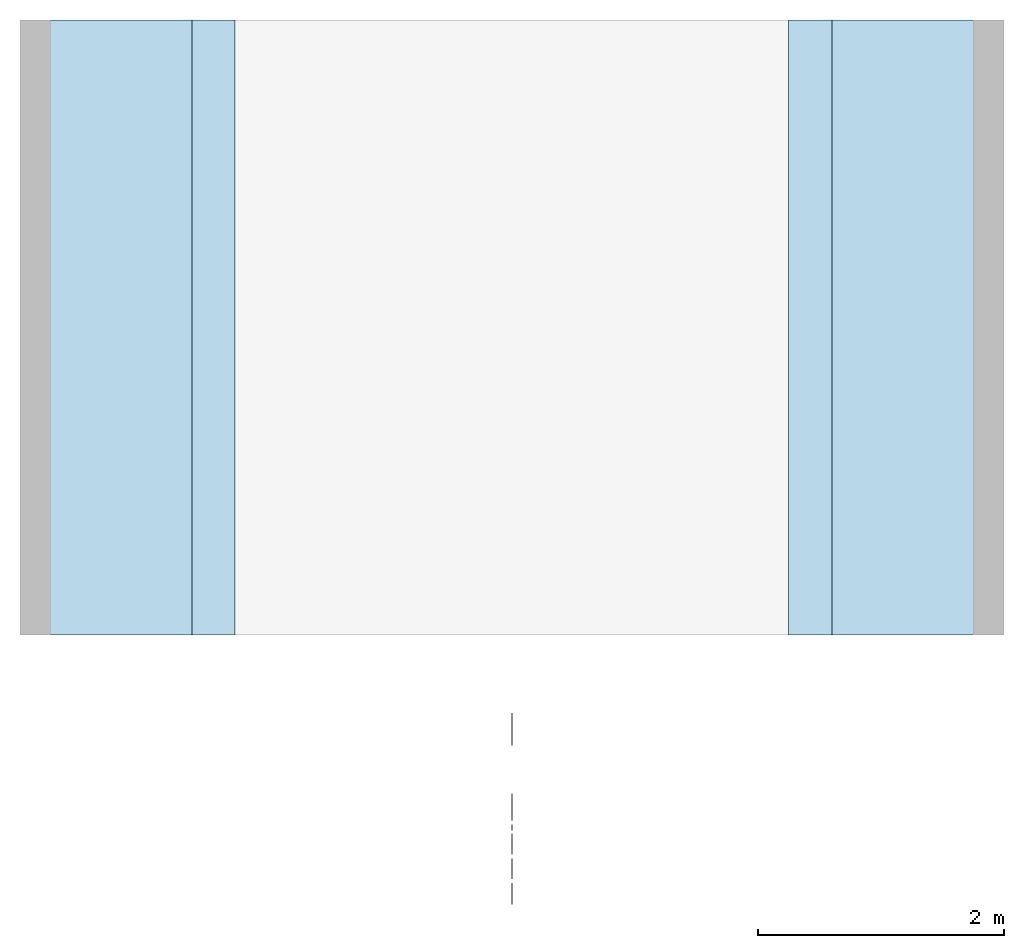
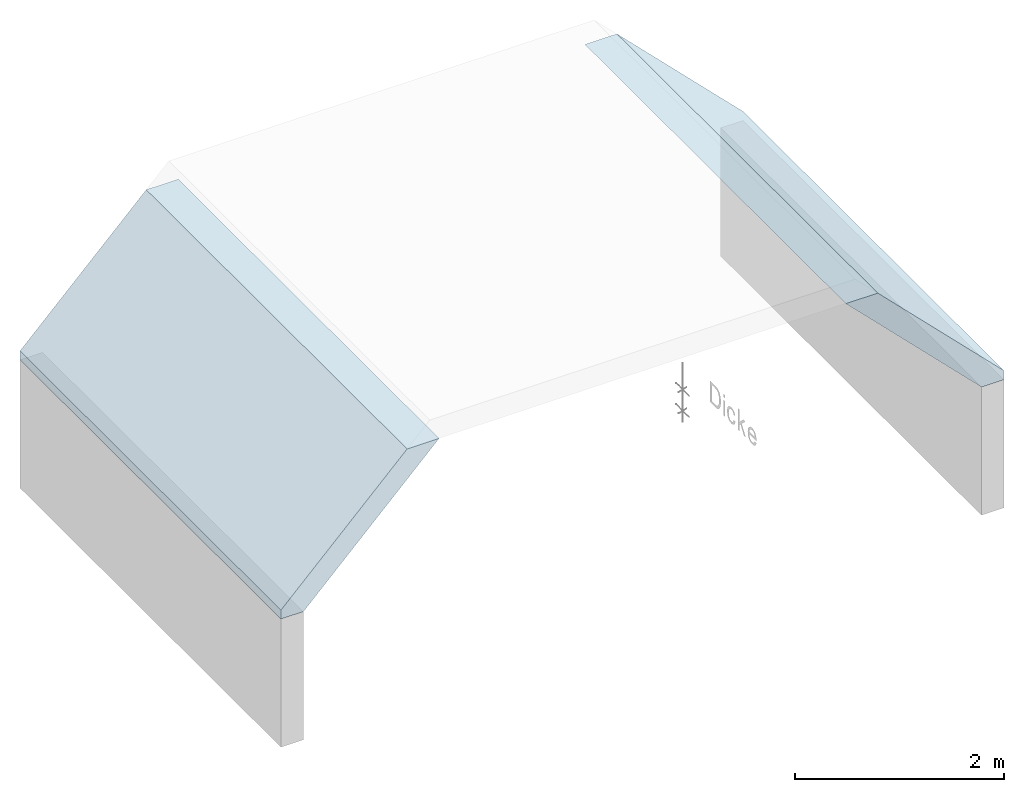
# One storey, part 2 of 3: 1 slab.
"""IFC4 building model written with IfcOpenShell, lengths in metres."""

import ifcopenshell
import ifcopenshell.guid

model = None  # the IFC model being written
_history = None  # IfcOwnerHistory: only IFC2X3 demands one
_inside = {}  # id of a spatial element -> (the spatial element, [elements in it])
_under = {}  # id of a project, library or spatial element -> (it, [spatial elements below it])
_declared = {}  # id of a project -> (the project, [libraries it declares])
_typed = {}  # id of a type object -> (the type object, [elements of that type])
_made_of = {}  # id of a material, layer set ... -> (it, [elements and type objects made of it])


def new_model(schema):
    """Start an empty IFC model of exactly this schema.

    Asked for "IFC4X3", IfcOpenShell would pick the latest addendum, in which some entities
    have other attributes; the version numbers below select the first issue.
    IFC2X3 requires an IfcOwnerHistory on every rooted entity: one is made here for all.
    """
    global model, _history
    if schema == "IFC4X3":
        model = ifcopenshell.file(schema_version=(4, 3, 0, 0))
    else:
        model = ifcopenshell.file(schema=schema)
    _inside.clear()
    _under.clear()
    _declared.clear()
    _typed.clear()
    _made_of.clear()
    _history = None
    if model.schema == "IFC2X3":
        org = make("IfcOrganization", Name="unknown")
        user = make(
            "IfcPersonAndOrganization",
            ThePerson=make("IfcPerson", FamilyName="unknown"),
            TheOrganization=org,
        )
        app = make(
            "IfcApplication",
            ApplicationDeveloper=org,
            Version="unknown",
            ApplicationFullName="unknown",
            ApplicationIdentifier="unknown",
        )
        _history = make(
            "IfcOwnerHistory",
            OwningUser=user,
            OwningApplication=app,
            ChangeAction="ADDED",
            CreationDate=0,
        )
    return model


def make(cls, **values):
    """One entity of the class cls with the attributes given. An attribute that is None is left unset."""
    return model.create_entity(
        cls, **{name: value for name, value in values.items() if value is not None}
    )


def entity(cls, *values):
    """Any entity or typed value of the class cls, its attributes in the order of the schema. None: left unset."""
    e = model.create_entity(cls)
    for i, value in enumerate(values):
        if value is not None:
            e[i] = value
    return e


def rooted(cls, **values):
    """An entity with a GlobalId (a new one), such as an element, a storey or a relation."""
    return make(cls, GlobalId=ifcopenshell.guid.new(), OwnerHistory=_history, **values)


def si_unit(unit_type, name, prefix=None):
    """IfcSIUnit, for example si_unit("LENGTHUNIT", "METRE", prefix="MILLI")."""
    return make("IfcSIUnit", UnitType=unit_type, Prefix=prefix, Name=name)


def converted_unit(unit_type, name, factor, base, dimensions=None, offset=None):
    """IfcConversionBasedUnit, such as the inch: factor (a typed value) times the base unit."""
    return make(
        "IfcConversionBasedUnit"
        if offset is None
        else "IfcConversionBasedUnitWithOffset",
        ConversionOffset=offset,
        Dimensions=None
        if dimensions is None
        else entity("IfcDimensionalExponents", *dimensions),
        UnitType=unit_type,
        Name=name,
        ConversionFactor=make(
            "IfcMeasureWithUnit", ValueComponent=factor, UnitComponent=base
        ),
    )


def derived_unit(unit_type, elements):
    """IfcDerivedUnit: a product of units, each with its exponent."""
    return make(
        "IfcDerivedUnit",
        Elements=[
            make("IfcDerivedUnitElement", Unit=unit, Exponent=power)
            for unit, power in elements
        ],
        UnitType=unit_type,
    )


def assignment(units):
    """IfcUnitAssignment: the units of a project."""
    return None if units is None else make("IfcUnitAssignment", Units=units)


def point(xyz):
    """IfcCartesianPoint."""
    return None if xyz is None else make("IfcCartesianPoint", Coordinates=xyz)


def direction(xyz):
    """IfcDirection."""
    return None if xyz is None else make("IfcDirection", DirectionRatios=xyz)


def frame(location, z_axis=None, x_axis=None):
    """IfcAxis2Placement3D, a coordinate frame: its origin and axes. An axis left out is left unset."""
    return make(
        "IfcAxis2Placement3D",
        Location=point(location),
        Axis=direction(z_axis),
        RefDirection=direction(x_axis),
    )


def origin():
    """The frame at (0, 0, 0) with its axes left unset."""
    return frame((0.0, 0.0, 0.0))


def place(relative_to, where):
    """IfcLocalPlacement: puts the frame where relative to a parent placement (None: the world)."""
    return make(
        "IfcLocalPlacement", PlacementRelTo=relative_to, RelativePlacement=where
    )


def context(
    kind, dimensions, precision=None, world=None, true_north=None, identifier=None
):
    """IfcGeometricRepresentationContext, for example the 3D "Model" context."""
    return make(
        "IfcGeometricRepresentationContext",
        ContextIdentifier=identifier,
        ContextType=kind,
        CoordinateSpaceDimension=dimensions,
        Precision=precision,
        WorldCoordinateSystem=world,
        TrueNorth=true_north,
    )


def subcontext(parent, identifier, kind, view, scale=None):
    """IfcGeometricRepresentationSubContext, for example "Body" below "Model"."""
    return make(
        "IfcGeometricRepresentationSubContext",
        ContextIdentifier=identifier,
        ContextType=kind,
        ParentContext=parent,
        TargetScale=scale,
        TargetView=view,
    )


def project(units=None, contexts=None):
    """IfcProject with its units and contexts."""
    return rooted(
        "IfcProject",
        Name="project",
        RepresentationContexts=contexts,
        UnitsInContext=assignment(units),
    )


def spatial(cls, under=None, at=None, **own):
    """A site, building, storey or space (cls), placed at a placement, below another one or the project."""
    s = rooted(cls, ObjectPlacement=at, **own)
    if under is not None:
        _under.setdefault(under.id(), (under, []))[1].append(s)
    return s


def faces_of(points, faces, orient=None, outer=None):
    """IfcFace entities. A face is a list of loops; a loop is a list of indices into points, from 0.

    orient and outer hold one flag for each loop. By default every Orientation is true, the
    first loop of a face is its IfcFaceOuterBound and the others are IfcFaceBound.
    """
    made = []
    for i, loops in enumerate(faces):
        bounds = []
        for j, loop in enumerate(loops):
            is_outer = j == 0 if outer is None else outer[i][j]
            bounds.append(
                make(
                    "IfcFaceOuterBound" if is_outer else "IfcFaceBound",
                    Bound=make("IfcPolyLoop", Polygon=[points[k] for k in loop]),
                    Orientation=True if orient is None else orient[i][j],
                )
            )
        made.append(make("IfcFace", Bounds=bounds))
    return made


def faceted_brep(points, faces, orient=None, outer=None, voids=None):
    """IfcFacetedBrep: a solid bounded by flat faces; with voids (closed shells), ...WithVoids."""
    shared = [point(p) for p in points]
    hull = make("IfcClosedShell", CfsFaces=faces_of(shared, faces, orient, outer))
    if voids is None:
        return make("IfcFacetedBrep", Outer=hull)
    return make(
        "IfcFacetedBrepWithVoids",
        Outer=hull,
        Voids=[
            make(cls, CfsFaces=faces_of(shared, fs, o, b)) for cls, fs, o, b in voids
        ],
    )


def shape(context_of_items, identifier, shape_type, items):
    """IfcShapeRepresentation: the items that make up one representation, for example the "Body"."""
    return make(
        "IfcShapeRepresentation",
        ContextOfItems=context_of_items,
        RepresentationIdentifier=identifier,
        RepresentationType=shape_type,
        Items=items,
    )


def made_of(thing, what):
    """Note that an element or type object is made of a material, layer set ...; save() writes the relation."""
    if what is not None:
        _made_of.setdefault(what.id(), (what, []))[1].append(thing)
    return thing


def element(
    cls,
    number,
    at=None,
    inside=None,
    cuts=None,
    type_object=None,
    material=None,
    context=None,
    identifier="Body",
    shape_type=None,
    held_by="IfcProductDefinitionShape",
    body=None,
    shapes=None,
    **own,
):
    """One element of the class cls, such as IfcWall. Its Tag is "e" and its number.

    at: its placement. inside: the storey or other place that contains it. cuts: it is an
    opening in that element (IfcRelVoidsElement). A single representation is given by context,
    identifier, shape_type and body (its items); several are given by shapes. held_by: the class
    of the entity that holds the representations. save() writes the other relations.
    """
    e = rooted(cls, Tag="e%d" % number, ObjectPlacement=at, **own)
    if body is not None:
        shapes = [shape(context, identifier, shape_type, body)]
    if shapes is not None:
        e.Representation = make(held_by, Representations=shapes)
    if inside is not None:
        _inside.setdefault(inside.id(), (inside, []))[1].append(e)
    if cuts is not None:
        rooted(
            "IfcRelVoidsElement", RelatingBuildingElement=cuts, RelatedOpeningElement=e
        )
    if type_object is not None:
        _typed.setdefault(type_object.id(), (type_object, []))[1].append(e)
    return made_of(e, material)


def aggregate(whole, parts):
    """IfcRelAggregates: a whole, such as a stair, and the parts it consists of."""
    return rooted("IfcRelAggregates", RelatingObject=whole, RelatedObjects=parts)


def save(model, path):
    """Write the relations noted so far, then the file.

    IfcRelAggregates (storeys below a building ...), IfcRelContainedInSpatialStructure (elements
    in a storey), IfcRelDefinesByType, IfcRelAssociatesMaterial and IfcRelDeclares: one each for
    every whole, place, type object, material and project.
    """
    for whole, parts in _under.values():
        aggregate(whole, parts)
    for where, things in _inside.values():
        rooted(
            "IfcRelContainedInSpatialStructure",
            RelatedElements=things,
            RelatingStructure=where,
        )
    for kind, things in _typed.values():
        rooted("IfcRelDefinesByType", RelatedObjects=things, RelatingType=kind)
    for what, things in _made_of.values():
        rooted("IfcRelAssociatesMaterial", RelatedObjects=things, RelatingMaterial=what)
    for by, libraries in _declared.values():
        rooted("IfcRelDeclares", RelatingContext=by, RelatedDefinitions=libraries)
    model.write(path)


model = new_model("IFC4")

# Units and contexts
model_context = context("Model", 3, precision=1e-05, world=origin())
body_context = subcontext(model_context, "Body", "Model", "MODEL_VIEW")
ifc_project = project(units=[si_unit("LENGTHUNIT", "METRE"), si_unit("AREAUNIT", "SQUARE_METRE"), si_unit("VOLUMEUNIT", "CUBIC_METRE"), si_unit("MASSUNIT", "GRAM", prefix="KILO"), converted_unit("PLANEANGLEUNIT", "DEGREE", entity("IfcPlaneAngleMeasure", 0.0174532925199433), si_unit("PLANEANGLEUNIT", "RADIAN"), dimensions=[0, 0, 0, 0, 0, 0, 0]), derived_unit("THERMALTRANSMITTANCEUNIT", [(si_unit("POWERUNIT", "WATT"), 1), (si_unit("THERMODYNAMICTEMPERATUREUNIT", "KELVIN"), -1), (si_unit("LENGTHUNIT", "METRE"), -2)]), derived_unit("VOLUMETRICFLOWRATEUNIT", [(si_unit("LENGTHUNIT", "METRE"), 3), (converted_unit("TIMEUNIT", "hour", entity("IfcTimeMeasure", 3600.0), si_unit("TIMEUNIT", "SECOND"), dimensions=[0, 0, 1, 0, 0, 0, 0]), -1), (si_unit("LENGTHUNIT", "METRE"), -1)])], contexts=[model_context])

# Site, building, storey
site_placement = place(None, origin())
site = spatial("IfcSite", under=ifc_project, at=site_placement, Name="Liegenschaft", CompositionType="ELEMENT")
building_placement = place(site_placement, origin())
building = spatial("IfcBuilding", under=site, at=building_placement, Name="Gebäude", CompositionType="ELEMENT")
storey_placement = place(building_placement, origin())
storey = spatial("IfcBuildingStorey", under=building, at=storey_placement, Name="Geschoss 01", CompositionType="ELEMENT", Elevation=0.0)

# Slab
slab_placement = place(storey_placement, frame((137.66953885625, -2.73332187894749, 1.5)))
element("IfcSlab", 1, at=slab_placement, inside=storey, PredefinedType="NOTDEFINED", context=body_context, shape_type="Brep", body=[
    faceted_brep([(6.60355339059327, 5.0, 1.5), (8.0, 5.0, 0.103553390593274), (8.0, 0.0, 0.103553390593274), (6.60355339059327, 0.0, 1.5), (8.0, 5.0, 0.0), (8.0, 0.0, 0.0), (7.75, 0.0, 0.0), (7.75, 5.0, 0.0), (6.25, 5.0, 1.5), (6.25, 0.0, 1.5)], [[[0, 1, 2, 3]], [[2, 1, 4, 5]], [[6, 7, 8, 9]], [[3, 2, 5, 6, 9]], [[8, 7, 4, 1, 0]], [[4, 7, 6, 5]], [[0, 3, 9, 8]]], orient=[[False], [False], [False], [False], [False], [False], [False]]),
    faceted_brep([(1.75, 0.0, 1.5), (1.75, 5.0, 1.5), (0.25, 5.0, 0.0), (0.25, 0.0, 0.0), (0.0, 5.0, 0.0), (0.0, 5.0, 0.103553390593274), (0.0, 0.0, 0.103553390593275), (0.0, 0.0, 0.0), (1.39644660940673, 5.0, 1.5), (1.39644660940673, 0.0, 1.5)], [[[0, 1, 2, 3]], [[4, 5, 6, 7]], [[6, 5, 8, 9]], [[0, 3, 7, 6, 9]], [[8, 5, 4, 2, 1]], [[2, 4, 7, 3]], [[1, 0, 9, 8]]], orient=[[False], [False], [False], [False], [False], [False], [False]]),
])

save(model, "model.ifc")
